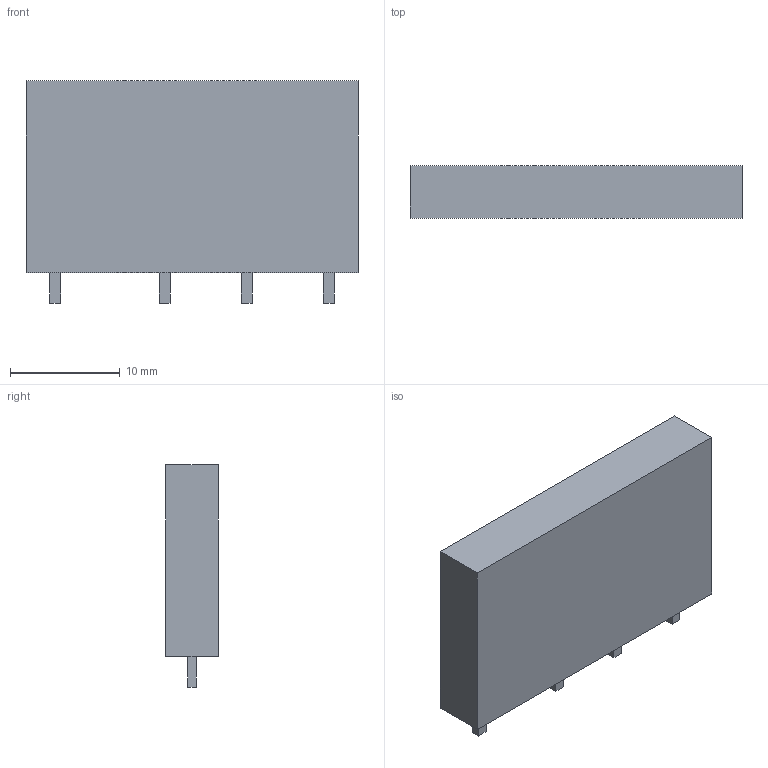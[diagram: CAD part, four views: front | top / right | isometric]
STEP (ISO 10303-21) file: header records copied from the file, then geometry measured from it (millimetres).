
FILE_DESCRIPTION(('Open CASCADE Model'),'2;1');
FILE_NAME('Open CASCADE Shape Model','2026-09-26T20:56:26',('Author'),( 'Open CASCADE'),'Open CASCADE STEP processor 7.9','Open CASCADE 7.9' ,'Unknown');
FILE_SCHEMA(('AUTOMOTIVE_DESIGN { 1 0 10303 214 1 1 1 1 }'));
Length unit declared in the file: millimetre
Products named in the file (6): Open CASCADE STEP translator 7.9 1; Open CASCADE STEP translator 7.9 1.1; Open CASCADE STEP translator 7.9 1.2; Open CASCADE STEP translator 7.9 1.3; Open CASCADE STEP translator 7.9 1.4; Open CASCADE STEP translator 7.9 1.5
Assembly tree (5 placements, depth 2):
  Open CASCADE STEP translator 7.9 1
    Open CASCADE STEP translator 7.9 1.1
    Open CASCADE STEP translator 7.9 1.2
    Open CASCADE STEP translator 7.9 1.3
    Open CASCADE STEP translator 7.9 1.4
    Open CASCADE STEP translator 7.9 1.5
Bounding box: 30.3 x 4.8 x 20.3 mm (x, y, z)
Volume: 2554.2 mm3; surface area: 1566.1 mm2
Topology: 5 solids, 5 shells, 30 faces, 60 edges, 40 vertices
Faces by surface type: plane 30
Entity records: 1636 total; most frequent: CARTESIAN_POINT 256, DIRECTION 252, LINE 180, VECTOR 180, ORIENTED_EDGE 120, PCURVE 120, DEFINITIONAL_REPRESENTATION 120, EDGE_CURVE 60
